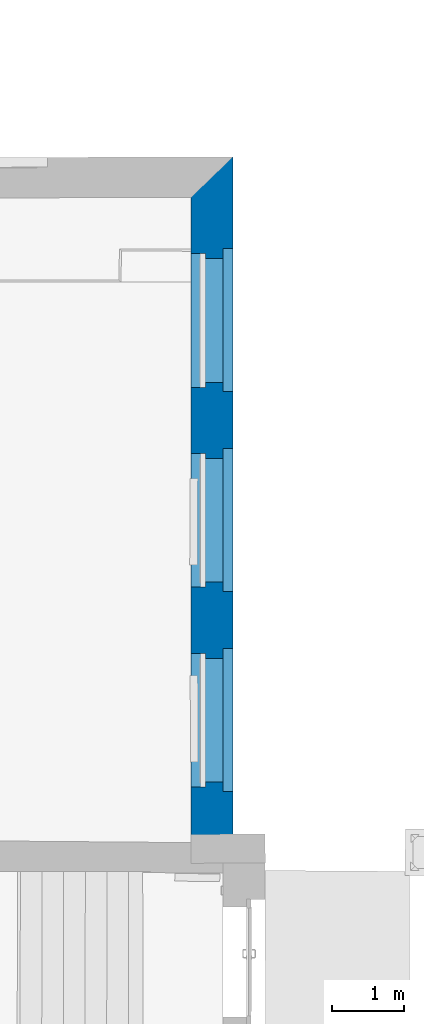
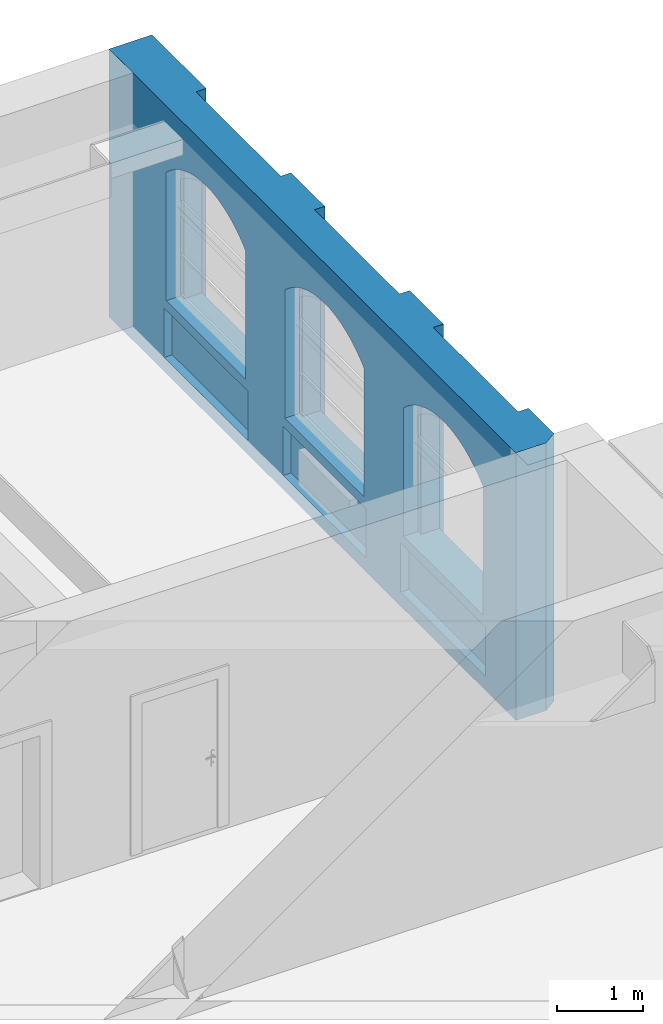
# One storey, part 57 of 158: 1 wall, 9 openings.
"""IFC2X3 building model written with IfcOpenShell, lengths in metres."""

from ifc_helpers import new_model, entity, si_unit, converted_unit, derived_unit, money_unit, direction, frame, origin_with_axes, origin_2d_with_axis, place, context, subcontext, project, spatial, polyline, rectangle, outline, extrude, boolean, faceted_brep, material, type_object, element, save


model = new_model("IFC2X3")

# Units and contexts
model_context = context("Model", 3, precision=1e-05, world=origin_with_axes(), true_north=direction((0.0, 1.0)))
body_context = subcontext(model_context, "Body", "Model", "MODEL_VIEW")
ifc_project = project(units=[si_unit("LENGTHUNIT", "METRE"), si_unit("AREAUNIT", "SQUARE_METRE"), si_unit("VOLUMEUNIT", "CUBIC_METRE"), converted_unit("PLANEANGLEUNIT", "DEGREE", entity("IfcPlaneAngleMeasure", 0.0174532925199), si_unit("PLANEANGLEUNIT", "RADIAN"), dimensions=[0, 0, 0, 0, 0, 0, 0]), money_unit("EUR"), converted_unit("TIMEUNIT", "Year", entity("IfcTimeMeasure", 31556926.0), si_unit("TIMEUNIT", "SECOND"), dimensions=[0, 0, 1, 0, 0, 0, 0]), si_unit("MASSUNIT", "GRAM", prefix="KILO"), si_unit("THERMODYNAMICTEMPERATUREUNIT", "DEGREE_CELSIUS"), si_unit("LUMINOUSINTENSITYUNIT", "LUMEN"), si_unit("ENERGYUNIT", "JOULE", prefix="MEGA"), derived_unit("THERMALCONDUCTANCEUNIT", [(si_unit("POWERUNIT", "WATT"), 1), (si_unit("LENGTHUNIT", "METRE"), -1), (si_unit("THERMODYNAMICTEMPERATUREUNIT", "KELVIN"), -1)]), derived_unit("SPECIFICHEATCAPACITYUNIT", [(si_unit("ENERGYUNIT", "JOULE"), 1), (si_unit("MASSUNIT", "GRAM", prefix="KILO"), -1), (si_unit("THERMODYNAMICTEMPERATUREUNIT", "KELVIN"), -1)]), derived_unit("MASSDENSITYUNIT", [(si_unit("MASSUNIT", "GRAM", prefix="KILO"), 1), (si_unit("VOLUMEUNIT", "CUBIC_METRE"), -1)])], contexts=[model_context])

# Site, building, storey
site_placement = place(None, origin_with_axes())
site = spatial("IfcSite", under=ifc_project, at=site_placement, Name="Gelände", CompositionType="ELEMENT")
building_placement = place(site_placement, origin_with_axes())
building = spatial("IfcBuilding", under=site, at=building_placement, Name="Gebäude", CompositionType="ELEMENT")
storey_placement = place(building_placement, origin_with_axes())
storey = spatial("IfcBuildingStorey", under=building, at=storey_placement, Name="ERDGESCHOSS", CompositionType="ELEMENT", Elevation=0.0)

# Wall, openings
ifc_material = material(Name="05_ALLGEMEIN - TRAGENDE BAUTEILE")
wall_type = type_object("IfcWallType", Name="05_ALLGEMEIN - TRAGENDE BAUTEILE 580", PredefinedType="ELEMENTEDWALL")
wall_placement = place(storey_placement, frame((31.6770990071, 19.8019123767, -0.210000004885), z_axis=(0.0, 0.0, 1.0), x_axis=(-0.000336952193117, 0.999999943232, 0.0)))
wall = element("IfcWall", 1, at=wall_placement, inside=storey, type_object=wall_type, material=ifc_material, Name="Wand-038", ObjectType="ELEMENTEDWALL", context=body_context, shape_type="CSG", body=[
    boolean("DIFFERENCE", boolean("DIFFERENCE", extrude(outline(polyline([(-0.402913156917, 0.0), (9.36638695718, 0.0), (9.36638695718, 0.58), (-0.402913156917, 0.58), (-0.402913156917, 0.0)])), origin_with_axes(), (0.0, 0.0, 1.0), 3.81000000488), faceted_brep([(9.36615351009, 0.58, 3.81000000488), (9.36638695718, 0.0, 3.81000000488), (9.36638695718, 0.58, 3.81000000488), (9.36638695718, 0.0, 0.0), (9.36615351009, 0.58, 0.0), (9.36638695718, 0.58, 0.0)], [[[0, 1, 2]], [[3, 1, 0, 4]], [[1, 3, 5, 2]], [[4, 0, 2, 5]], [[3, 4, 5]]])), faceted_brep([(0.0, 0.0, 0.0), (0.0, 0.0, 3.81000000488), (-0.402913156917, 0.0, 3.81000000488), (-0.402913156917, 0.0, 0.0), (-0.119969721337, 0.172698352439, 3.81000000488), (-0.119969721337, 0.172698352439, 0.0), (-0.116405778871, 0.58, 3.81000000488), (-0.402913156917, 0.58, 3.81000000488), (-0.402913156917, 0.58, 0.0), (-0.116405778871, 0.58, 0.0)], [[[0, 1, 2, 3]], [[4, 1, 0, 5]], [[4, 6, 7, 2, 1]], [[7, 8, 3, 2]], [[5, 0, 3, 8, 9]], [[6, 4, 5, 9]], [[6, 9, 8, 7]]])),
])
opening_1_placement = place(wall_placement, frame((4.34905198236, 0.0, 0.591785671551), z_axis=(0.0, 0.0, 1.0), x_axis=(1.0, 0.0, 0.0)))
element("IfcOpeningElement", 2, at=opening_1_placement, cuts=wall, Name="Fenster-015", ObjectType="Recess", context=body_context, shape_type="SweptSolid", body=[
    extrude(outline(polyline([(-0.989000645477, 0.0), (-0.989000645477, -5.96399996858), (-0.80399688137, -6.12478195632), (-0.593339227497, -6.25008413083), (-0.363749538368, -6.33590836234), (-0.122553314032, -6.37951619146), (0.122553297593, -6.37951619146), (0.363749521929, -6.33590836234), (0.593339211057, -6.25008413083), (0.80399686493, -6.12478195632), (0.989000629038, -5.96399996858), (0.989001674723, -5.96389996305), (0.989000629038, 0.0), (-0.989000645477, 0.0)])), frame((0.0, 0.137560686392, 0.0), z_axis=(0.0, 1.0, 0.0), x_axis=(1.0, 0.0, 0.0)), (0.0, 0.0, -1.0), 0.717560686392),
])
opening_2_placement = place(wall_placement, frame((4.3416672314, 0.0, 1.03753167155), z_axis=(0.0, 0.0, 1.0), x_axis=(1.0, 0.0, 0.0)))
element("IfcOpeningElement", 3, at=opening_2_placement, cuts=wall, Name="Fenster-015", context=body_context, shape_type="SweptSolid", body=[
    extrude(outline(polyline([(-0.855, 0.0), (-0.855, -1.79963152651), (-0.764868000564, -1.87463606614), (-0.668190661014, -1.94099079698), (-0.565795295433, -1.99812788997), (-0.458558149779, -2.04555839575), (-0.34739690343, -2.08287642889), (-0.233262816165, -2.10976264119), (-0.117132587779, -2.12598695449), (0.0, -2.13141052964), (0.117132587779, -2.12598695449), (0.233262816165, -2.10976264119), (0.34739690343, -2.08287642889), (0.458558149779, -2.04555839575), (0.565795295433, -1.99812788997), (0.668190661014, -1.94099079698), (0.764868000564, -1.87463606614), (0.855, -1.79963152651), (0.855, 0.0), (-0.855, 0.0)])), frame((0.0, 0.382213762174, 0.0), z_axis=(0.0, 1.0, 0.0), x_axis=(1.0, 0.0, 0.0)), (0.0, 0.0, -1.0), 0.962213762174),
    extrude(outline(polyline([(0.925, 0.0), (0.925, 1.83), (0.828704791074, 1.91376361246), (0.724864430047, 1.98796798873), (0.614424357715, 2.05193751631), (0.498390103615, 2.10508976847), (0.377818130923, 2.14694080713), (0.253806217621, 2.17710958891), (0.127483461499, 2.19532143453), (0.0, 2.20141052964), (-0.127483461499, 2.19532143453), (-0.253806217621, 2.17710958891), (-0.377818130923, 2.14694080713), (-0.498390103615, 2.10508976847), (-0.614424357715, 2.05193751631), (-0.724864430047, 1.98796798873), (-0.828704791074, 1.91376361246), (-0.925, 1.83), (-0.925, 0.0), (0.925, 0.0)])), frame((0.0, 0.382213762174, 0.0), z_axis=(0.0, -1.0, 0.0), x_axis=(1.0, 0.0, 0.0)), (0.0, 0.0, -1.0), 0.777786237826),
])
opening_3_placement = place(wall_placement, frame((7.11401505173, 0.0, 0.591785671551), z_axis=(0.0, 0.0, 1.0), x_axis=(1.0, 0.0, 0.0)))
element("IfcOpeningElement", 4, at=opening_3_placement, cuts=wall, Name="Fenster-015", ObjectType="Recess", context=body_context, shape_type="SweptSolid", body=[
    extrude(outline(polyline([(-0.989000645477, 0.0), (-0.989000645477, -5.96399996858), (-0.80399688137, -6.12478195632), (-0.593339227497, -6.25008413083), (-0.363749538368, -6.33590836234), (-0.122553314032, -6.37951619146), (0.122553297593, -6.37951619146), (0.363749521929, -6.33590836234), (0.593339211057, -6.25008413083), (0.80399686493, -6.12478195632), (0.989000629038, -5.96399996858), (0.989001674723, -5.96389996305), (0.989000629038, 0.0), (-0.989000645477, 0.0)])), frame((0.0, 0.137560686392, 0.0), z_axis=(0.0, 1.0, 0.0), x_axis=(1.0, 0.0, 0.0)), (0.0, 0.0, -1.0), 0.717560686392),
])
opening_4_placement = place(wall_placement, frame((7.10663030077, 0.0, 1.03753167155), z_axis=(0.0, 0.0, 1.0), x_axis=(1.0, 0.0, 0.0)))
element("IfcOpeningElement", 5, at=opening_4_placement, cuts=wall, Name="Fenster-015", context=body_context, shape_type="SweptSolid", body=[
    extrude(outline(polyline([(-0.855, 0.0), (-0.855, -1.79963152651), (-0.764868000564, -1.87463606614), (-0.668190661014, -1.94099079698), (-0.565795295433, -1.99812788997), (-0.458558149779, -2.04555839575), (-0.34739690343, -2.08287642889), (-0.233262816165, -2.10976264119), (-0.117132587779, -2.12598695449), (0.0, -2.13141052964), (0.117132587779, -2.12598695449), (0.233262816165, -2.10976264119), (0.34739690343, -2.08287642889), (0.458558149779, -2.04555839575), (0.565795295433, -1.99812788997), (0.668190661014, -1.94099079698), (0.764868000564, -1.87463606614), (0.855, -1.79963152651), (0.855, 0.0), (-0.855, 0.0)])), frame((0.0, 0.382213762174, 0.0), z_axis=(0.0, 1.0, 0.0), x_axis=(1.0, 0.0, 0.0)), (0.0, 0.0, -1.0), 0.962213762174),
    extrude(outline(polyline([(0.925, 0.0), (0.925, 1.83), (0.828704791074, 1.91376361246), (0.724864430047, 1.98796798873), (0.614424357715, 2.05193751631), (0.498390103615, 2.10508976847), (0.377818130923, 2.14694080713), (0.253806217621, 2.17710958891), (0.127483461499, 2.19532143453), (0.0, 2.20141052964), (-0.127483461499, 2.19532143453), (-0.253806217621, 2.17710958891), (-0.377818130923, 2.14694080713), (-0.498390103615, 2.10508976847), (-0.614424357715, 2.05193751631), (-0.724864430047, 1.98796798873), (-0.828704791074, 1.91376361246), (-0.925, 1.83), (-0.925, 0.0), (0.925, 0.0)])), frame((0.0, 0.382213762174, 0.0), z_axis=(0.0, -1.0, 0.0), x_axis=(1.0, 0.0, 0.0)), (0.0, 0.0, -1.0), 0.777786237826),
])
opening_5_placement = place(wall_placement, frame((1.58251483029, 0.0, 0.591785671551), z_axis=(0.0, 0.0, 1.0), x_axis=(1.0, 0.0, 0.0)))
element("IfcOpeningElement", 6, at=opening_5_placement, cuts=wall, Name="Fenster-015", ObjectType="Recess", context=body_context, shape_type="SweptSolid", body=[
    extrude(outline(polyline([(-0.989000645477, 0.0), (-0.989000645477, -5.96399996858), (-0.80399688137, -6.12478195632), (-0.593339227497, -6.25008413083), (-0.363749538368, -6.33590836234), (-0.122553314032, -6.37951619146), (0.122553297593, -6.37951619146), (0.363749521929, -6.33590836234), (0.593339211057, -6.25008413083), (0.80399686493, -6.12478195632), (0.989000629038, -5.96399996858), (0.989001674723, -5.96389996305), (0.989000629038, 0.0), (-0.989000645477, 0.0)])), frame((0.0, 0.137560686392, 0.0), z_axis=(0.0, 1.0, 0.0), x_axis=(1.0, 0.0, 0.0)), (0.0, 0.0, -1.0), 0.717560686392),
])
opening_6_placement = place(wall_placement, frame((1.57513007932, 0.0, 1.03753167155), z_axis=(0.0, 0.0, 1.0), x_axis=(1.0, 0.0, 0.0)))
element("IfcOpeningElement", 7, at=opening_6_placement, cuts=wall, Name="Fenster-015", context=body_context, shape_type="SweptSolid", body=[
    extrude(outline(polyline([(-0.855, 0.0), (-0.855, -1.79963152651), (-0.764868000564, -1.87463606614), (-0.668190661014, -1.94099079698), (-0.565795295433, -1.99812788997), (-0.458558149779, -2.04555839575), (-0.34739690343, -2.08287642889), (-0.233262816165, -2.10976264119), (-0.117132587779, -2.12598695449), (0.0, -2.13141052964), (0.117132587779, -2.12598695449), (0.233262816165, -2.10976264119), (0.34739690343, -2.08287642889), (0.458558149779, -2.04555839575), (0.565795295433, -1.99812788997), (0.668190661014, -1.94099079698), (0.764868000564, -1.87463606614), (0.855, -1.79963152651), (0.855, 0.0), (-0.855, 0.0)])), frame((0.0, 0.382213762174, 0.0), z_axis=(0.0, 1.0, 0.0), x_axis=(1.0, 0.0, 0.0)), (0.0, 0.0, -1.0), 0.962213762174),
    extrude(outline(polyline([(0.925, 0.0), (0.925, 1.83), (0.828704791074, 1.91376361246), (0.724864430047, 1.98796798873), (0.614424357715, 2.05193751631), (0.498390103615, 2.10508976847), (0.377818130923, 2.14694080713), (0.253806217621, 2.17710958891), (0.127483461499, 2.19532143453), (0.0, 2.20141052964), (-0.127483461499, 2.19532143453), (-0.253806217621, 2.17710958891), (-0.377818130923, 2.14694080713), (-0.498390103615, 2.10508976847), (-0.614424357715, 2.05193751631), (-0.724864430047, 1.98796798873), (-0.828704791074, 1.91376361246), (-0.925, 1.83), (-0.925, 0.0), (0.925, 0.0)])), frame((0.0, 0.382213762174, 0.0), z_axis=(0.0, -1.0, 0.0), x_axis=(1.0, 0.0, 0.0)), (0.0, 0.0, -1.0), 0.777786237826),
])
opening_7_placement = place(wall_placement, frame((7.10040223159, 0.0, 0.200000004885), z_axis=(0.0, 0.0, 1.0), x_axis=(1.0, 0.0, 0.0)))
element("IfcOpeningElement", 8, at=opening_7_placement, cuts=wall, Name="Fenster-017", ObjectType="Recess", context=body_context, shape_type="SweptSolid", body=[
    extrude(rectangle(XDim=1.9559509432, YDim=0.700413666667, at=origin_2d_with_axis()), frame((0.0, 0.472017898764, 0.350206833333), z_axis=(0.0, -1.0, 0.0), x_axis=(1.0, 0.0, 0.0)), (0.0, 0.0, -1.0), 0.687982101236),
])
opening_8_placement = place(wall_placement, frame((4.34022438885, 0.0, 0.200000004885), z_axis=(0.0, 0.0, 1.0), x_axis=(1.0, 0.0, 0.0)))
element("IfcOpeningElement", 9, at=opening_8_placement, cuts=wall, Name="Fenster-017", ObjectType="Recess", context=body_context, shape_type="SweptSolid", body=[
    extrude(rectangle(XDim=1.93106688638, YDim=0.700413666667, at=origin_2d_with_axis()), frame((0.0, 0.472017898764, 0.350206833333), z_axis=(0.0, -1.0, 0.0), x_axis=(1.0, 0.0, 0.0)), (0.0, 0.0, -1.0), 0.687982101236),
])
opening_9_placement = place(wall_placement, frame((1.57786817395, 0.0, 0.200000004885), z_axis=(0.0, 0.0, 1.0), x_axis=(1.0, 0.0, 0.0)))
element("IfcOpeningElement", 10, at=opening_9_placement, cuts=wall, Name="Fenster-017", ObjectType="Recess", context=body_context, shape_type="SweptSolid", body=[
    extrude(rectangle(XDim=1.98036692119, YDim=0.700413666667, at=origin_2d_with_axis()), frame((0.0, 0.464839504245, 0.350206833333), z_axis=(0.0, -1.0, 0.0), x_axis=(1.0, 0.0, 0.0)), (0.0, 0.0, -1.0), 0.695160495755),
])

save(model, "model.ifc")
